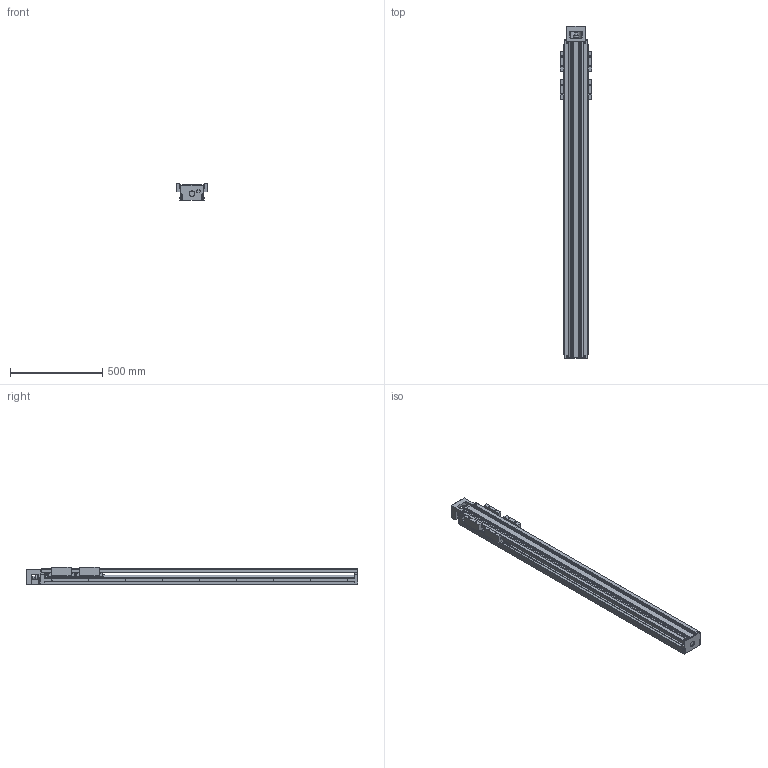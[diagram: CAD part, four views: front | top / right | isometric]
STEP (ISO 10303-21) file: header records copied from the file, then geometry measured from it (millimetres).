
FILE_DESCRIPTION(('no description'),'unknown implementation level');
FILE_NAME('KK13025P1680A2F0C00_FILE_12.stp',' ',('HIWIN GmbH'),('CADClick - KiM GmbH - www.kimweb.de'),'unknown preprocess','ACIS','unknown authorization');
FILE_SCHEMA(('automotive_design'));
Length unit declared in the file: millimetre
Products named in the file (3): KK13025P1680A2F0C00_FILE_1; KK130_FILE; KK13025P1680A2F0C00_FILE
Bounding box: 170 x 1798 x 94 mm (x, y, z)
Volume: 8810662.3 mm3; surface area: 1717781.3 mm2
Topology: 3 solids, 17 shells, 1324 faces, 3348 edges, 2160 vertices
Faces by surface type: plane 814, cylinder 446, torus 52, cone 8, sphere 4
Entity records: 78282 total; most frequent: DIRECTION 7106, CARTESIAN_POINT 7047, STYLED_ITEM 6831, PRESENTATION_STYLE_ASSIGNMENT 6831, COLOUR_RGB 6831, ORIENTED_EDGE 6688, EDGE_CURVE 3344, CURVE_STYLE 3344
